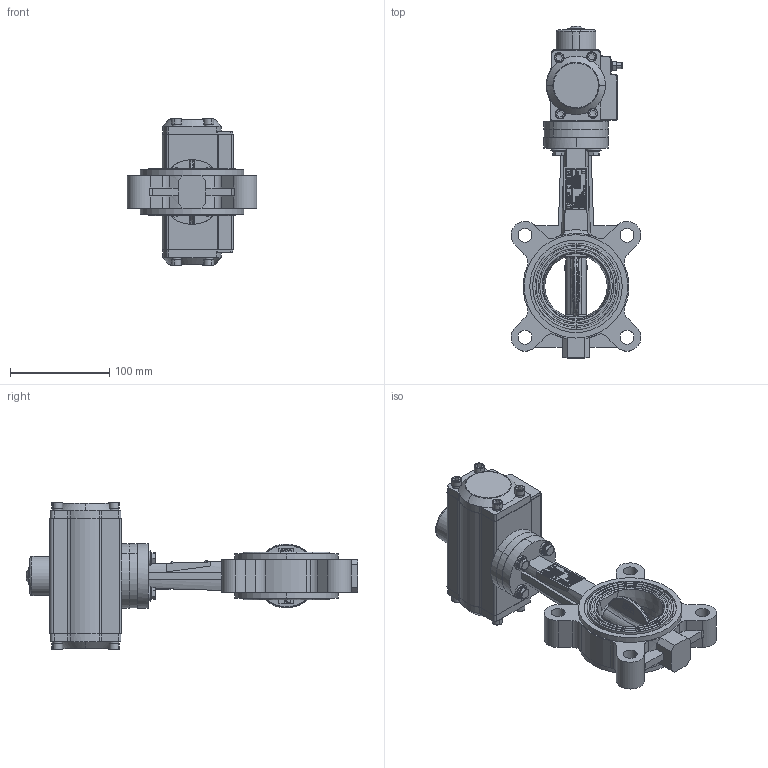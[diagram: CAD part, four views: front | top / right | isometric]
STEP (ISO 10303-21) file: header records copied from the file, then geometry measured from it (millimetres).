
FILE_DESCRIPTION (( 'STEP AP214' ), '1' );
FILE_NAME ('VP464X-N03XX0065.step', '2022-06-27T15:54:54', ( '' ), ( '' ), 'SwSTEP 2.0', 'SolidWorks 2020', '' );
FILE_SCHEMA (( 'AUTOMOTIVE_DESIGN' ));
Length unit declared in the file: millimetre
Products named in the file (1): VP464X-N03XX0065
Bounding box: 130.53 x 333.82 x 148.56 mm (x, y, z)
Surface area: 166486.7 mm2 (no closed solid volume)
Topology: 0 solids, 98 shells, 831 faces, 4944 edges, 4182 vertices
Faces by surface type: plane 405, cylinder 235, bspline 102, cone 85, torus 4
Entity records: 75106 total; most frequent: CARTESIAN_POINT 31076, ORIENTED_EDGE 6523, DIRECTION 5944, EDGE_CURVE 4937, VERTEX_POINT 4182, LINE 2788, VECTOR 2788, AXIS2_PLACEMENT_3D 1578
